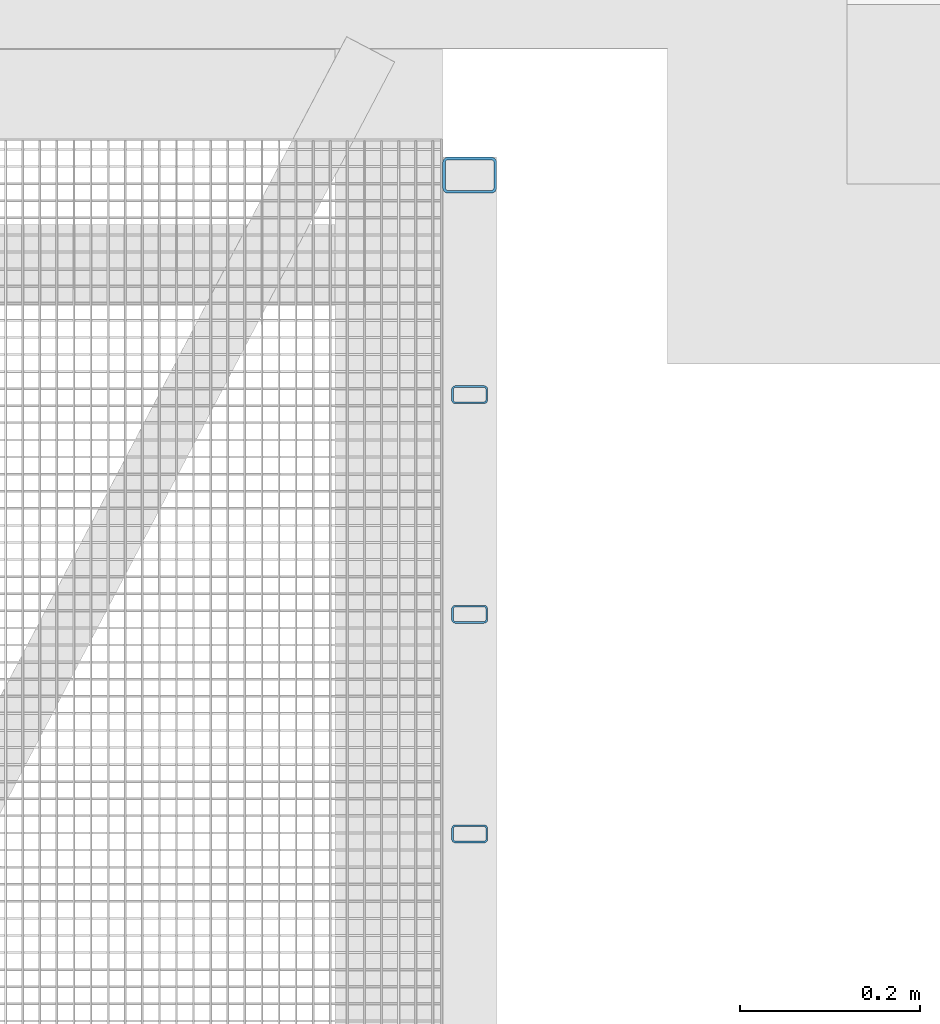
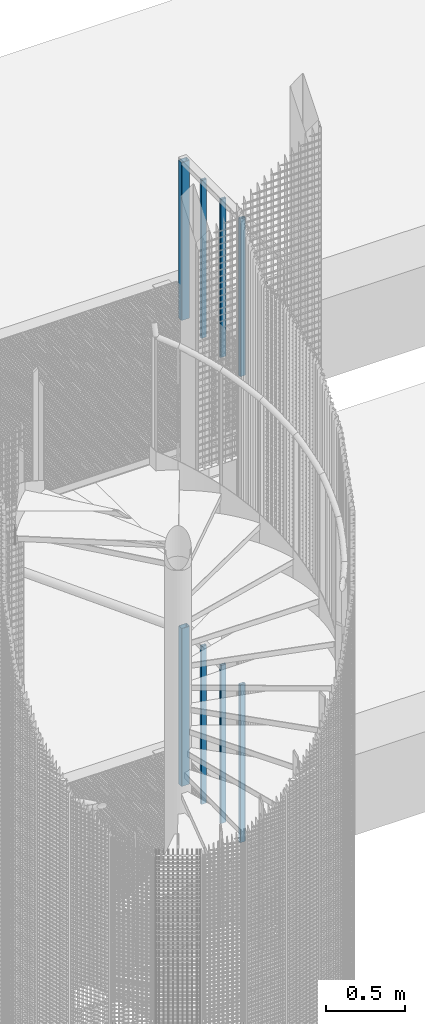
# One storey, part 36 of 1148: 8 columns, 8 elements without a shape of their own.
"""IFC2X3 building model written with IfcOpenShell, lengths in millimetres."""

from ifc_helpers import new_model, si_unit, frame, origin_with_axes, origin_2d_with_axis, place, context, subcontext, project, spatial, hollow_rectangle, extrude, material, type_object, element, aggregate, save


model = new_model("IFC2X3")

# Units and contexts
model_context = context("Model", 3, precision=1e-05, world=origin_with_axes())
body_context = subcontext(model_context, "Body", "Model", "MODEL_VIEW")
ifc_project = project(units=[si_unit("LENGTHUNIT", "METRE", prefix="MILLI"), si_unit("AREAUNIT", "SQUARE_METRE"), si_unit("VOLUMEUNIT", "CUBIC_METRE"), si_unit("MASSUNIT", "GRAM", prefix="KILO"), si_unit("TIMEUNIT", "SECOND"), si_unit("PLANEANGLEUNIT", "RADIAN"), si_unit("SOLIDANGLEUNIT", "STERADIAN"), si_unit("THERMODYNAMICTEMPERATUREUNIT", "DEGREE_CELSIUS"), si_unit("LUMINOUSINTENSITYUNIT", "LUMEN")], contexts=[model_context])

# Site, building, storey
site_placement = place(None, origin_with_axes())
site = spatial("IfcSite", under=ifc_project, at=site_placement, Name="Undefined", CompositionType="ELEMENT")
building_placement = place(site_placement, origin_with_axes())
building = spatial("IfcBuilding", under=site, at=building_placement, Name="Undefined", CompositionType="ELEMENT")
storey_placement = place(building_placement, origin_with_axes())
storey = spatial("IfcBuildingStorey", under=building, at=storey_placement, Name="Undefined", CompositionType="ELEMENT", Elevation=0.0)

# Assembly, column
assembly_1_placement = place(storey_placement, origin_with_axes())
assembly_1 = element("IfcElementAssembly", 1, at=assembly_1_placement, inside=storey, Name="STANCHION", AssemblyPlace="NOTDEFINED", PredefinedType="NOTDEFINED")
ifc_material = material(Name="Undefined/FE510D")
column_type_1 = type_object("IfcColumnType", Name="TUBE-R-40*20*2", PredefinedType="NOTDEFINED")
column_1_placement = place(assembly_1_placement, frame((1580.06490345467, 2415.85979616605, 9820.0), z_axis=(0.0, 0.0, 1.0), x_axis=(0.999999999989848, 4.50600000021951e-06, 0.0)))
column_1 = element("IfcColumn", 2, at=column_1_placement, type_object=column_type_1, material=ifc_material, Name="STANCHION", context=body_context, shape_type="SweptSolid", body=[
    extrude(hollow_rectangle(XDim=20.0, YDim=40.0, WallThickness=2.0, InnerFilletRadius=2.0, OuterFilletRadius=4.0, at=origin_2d_with_axis()), frame((0.0, 0.0, 1219.99999999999), z_axis=(0.0, 0.0, -1.0), x_axis=(0.0, 1.0, 0.0)), (0.0, 0.0, 1.0), 1220.0),
])
aggregate(assembly_1, [column_1])

assembly_2_placement = place(storey_placement, origin_with_axes())
assembly_2 = element("IfcElementAssembly", 3, at=assembly_2_placement, inside=storey, Name="STANCHION", AssemblyPlace="NOTDEFINED", PredefinedType="NOTDEFINED")
column_2_placement = place(assembly_2_placement, frame((1580.06600368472, 2171.68979616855, 9820.0), z_axis=(0.0, 0.0, 1.0), x_axis=(0.999999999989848, 4.50600000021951e-06, 0.0)))
column_2 = element("IfcColumn", 4, at=column_2_placement, type_object=column_type_1, material=ifc_material, Name="STANCHION", context=body_context, shape_type="SweptSolid", body=[
    extrude(hollow_rectangle(XDim=20.0, YDim=40.0, WallThickness=2.0, InnerFilletRadius=2.0, OuterFilletRadius=4.0, at=origin_2d_with_axis()), frame((0.0, 0.0, 1219.99999999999), z_axis=(0.0, 0.0, -1.0), x_axis=(0.0, 1.0, 0.0)), (0.0, 0.0, 1.0), 1220.0),
])
aggregate(assembly_2, [column_2])

assembly_3_placement = place(storey_placement, origin_with_axes())
assembly_3 = element("IfcElementAssembly", 5, at=assembly_3_placement, inside=storey, Name="STANCHION", AssemblyPlace="NOTDEFINED", PredefinedType="NOTDEFINED")
column_3_placement = place(assembly_3_placement, frame((1580.06710391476, 1927.51979617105, 9820.0), z_axis=(0.0, 0.0, 1.0), x_axis=(0.999999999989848, 4.50600000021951e-06, 0.0)))
column_3 = element("IfcColumn", 6, at=column_3_placement, type_object=column_type_1, material=ifc_material, Name="STANCHION", context=body_context, shape_type="SweptSolid", body=[
    extrude(hollow_rectangle(XDim=20.0, YDim=40.0, WallThickness=2.0, InnerFilletRadius=2.0, OuterFilletRadius=4.0, at=origin_2d_with_axis()), frame((0.0, 0.0, 1219.99999999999), z_axis=(0.0, 0.0, -1.0), x_axis=(0.0, 1.0, 0.0)), (0.0, 0.0, 1.0), 1220.0),
])
aggregate(assembly_3, [column_3])

assembly_4_placement = place(storey_placement, origin_with_axes())
assembly_4 = element("IfcElementAssembly", 7, at=assembly_4_placement, inside=storey, Name="STANCHION", AssemblyPlace="NOTDEFINED", PredefinedType="NOTDEFINED")
column_4_placement = place(assembly_4_placement, frame((1580.06490345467, 2415.85979616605, 6220.0), z_axis=(0.0, 0.0, 1.0), x_axis=(0.999999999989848, 4.50600000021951e-06, 0.0)))
column_4 = element("IfcColumn", 8, at=column_4_placement, type_object=column_type_1, material=ifc_material, Name="STANCHION", context=body_context, shape_type="SweptSolid", body=[
    extrude(hollow_rectangle(XDim=20.0, YDim=40.0, WallThickness=2.0, InnerFilletRadius=2.0, OuterFilletRadius=4.0, at=origin_2d_with_axis()), frame((0.0, 0.0, 1219.99999999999), z_axis=(0.0, 0.0, -1.0), x_axis=(0.0, 1.0, 0.0)), (0.0, 0.0, 1.0), 1220.0),
])
aggregate(assembly_4, [column_4])

assembly_5_placement = place(storey_placement, origin_with_axes())
assembly_5 = element("IfcElementAssembly", 9, at=assembly_5_placement, inside=storey, Name="STANCHION", AssemblyPlace="NOTDEFINED", PredefinedType="NOTDEFINED")
column_5_placement = place(assembly_5_placement, frame((1580.06600368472, 2171.68979616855, 6220.0), z_axis=(0.0, 0.0, 1.0), x_axis=(0.999999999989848, 4.50600000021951e-06, 0.0)))
column_5 = element("IfcColumn", 10, at=column_5_placement, type_object=column_type_1, material=ifc_material, Name="STANCHION", context=body_context, shape_type="SweptSolid", body=[
    extrude(hollow_rectangle(XDim=20.0, YDim=40.0, WallThickness=2.0, InnerFilletRadius=2.0, OuterFilletRadius=4.0, at=origin_2d_with_axis()), frame((0.0, 0.0, 1219.99999999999), z_axis=(0.0, 0.0, -1.0), x_axis=(0.0, 1.0, 0.0)), (0.0, 0.0, 1.0), 1220.0),
])
aggregate(assembly_5, [column_5])

assembly_6_placement = place(storey_placement, origin_with_axes())
assembly_6 = element("IfcElementAssembly", 11, at=assembly_6_placement, inside=storey, Name="STANCHION", AssemblyPlace="NOTDEFINED", PredefinedType="NOTDEFINED")
column_6_placement = place(assembly_6_placement, frame((1580.06710391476, 1927.51979617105, 6220.0), z_axis=(0.0, 0.0, 1.0), x_axis=(0.999999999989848, 4.50600000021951e-06, 0.0)))
column_6 = element("IfcColumn", 12, at=column_6_placement, type_object=column_type_1, material=ifc_material, Name="STANCHION", context=body_context, shape_type="SweptSolid", body=[
    extrude(hollow_rectangle(XDim=20.0, YDim=40.0, WallThickness=2.0, InnerFilletRadius=2.0, OuterFilletRadius=4.0, at=origin_2d_with_axis()), frame((0.0, 0.0, 1219.99999999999), z_axis=(0.0, 0.0, -1.0), x_axis=(0.0, 1.0, 0.0)), (0.0, 0.0, 1.0), 1220.0),
])
aggregate(assembly_6, [column_6])

assembly_7_placement = place(storey_placement, origin_with_axes())
assembly_7 = element("IfcElementAssembly", 13, at=assembly_7_placement, inside=storey, Name="STANCHION", AssemblyPlace="NOTDEFINED", PredefinedType="NOTDEFINED")
column_type_2 = type_object("IfcColumnType", Name="TUBE-R-60*40*3", PredefinedType="NOTDEFINED")
column_7_placement = place(assembly_7_placement, frame((1580.06365344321, 2660.00840282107, 9820.0), z_axis=(0.0, 0.0, 1.0), x_axis=(0.999999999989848, 4.50600000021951e-06, 0.0)))
column_7 = element("IfcColumn", 14, at=column_7_placement, type_object=column_type_2, material=ifc_material, Name="STANCHION", context=body_context, shape_type="SweptSolid", body=[
    extrude(hollow_rectangle(XDim=40.0, YDim=60.0, WallThickness=3.0, InnerFilletRadius=3.0, OuterFilletRadius=6.0, at=origin_2d_with_axis()), frame((0.0, 0.0, 1219.99999999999), z_axis=(0.0, 0.0, -1.0), x_axis=(0.0, 1.0, 0.0)), (0.0, 0.0, 1.0), 1220.0),
])
aggregate(assembly_7, [column_7])

assembly_8_placement = place(storey_placement, origin_with_axes())
assembly_8 = element("IfcElementAssembly", 15, at=assembly_8_placement, inside=storey, Name="STANCHION", AssemblyPlace="NOTDEFINED", PredefinedType="NOTDEFINED")
column_8_placement = place(assembly_8_placement, frame((1580.06365344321, 2660.00840282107, 6220.0), z_axis=(0.0, 0.0, 1.0), x_axis=(0.999999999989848, 4.50600000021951e-06, 0.0)))
column_8 = element("IfcColumn", 16, at=column_8_placement, type_object=column_type_2, material=ifc_material, Name="STANCHION", context=body_context, shape_type="SweptSolid", body=[
    extrude(hollow_rectangle(XDim=40.0, YDim=60.0, WallThickness=3.0, InnerFilletRadius=3.0, OuterFilletRadius=6.0, at=origin_2d_with_axis()), frame((0.0, 0.0, 1219.99999999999), z_axis=(0.0, 0.0, -1.0), x_axis=(0.0, 1.0, 0.0)), (0.0, 0.0, 1.0), 1220.0),
])
aggregate(assembly_8, [column_8])

save(model, "model.ifc")
